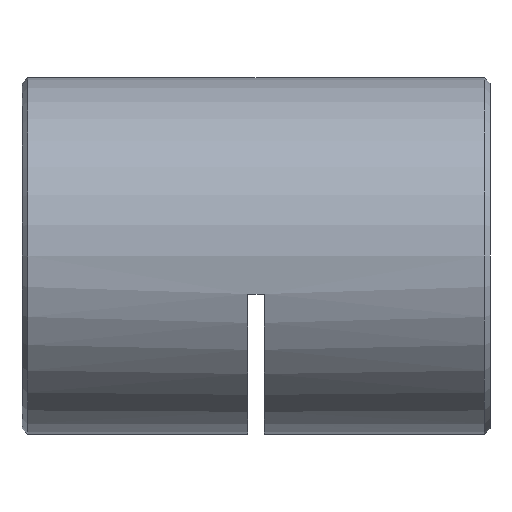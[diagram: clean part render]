
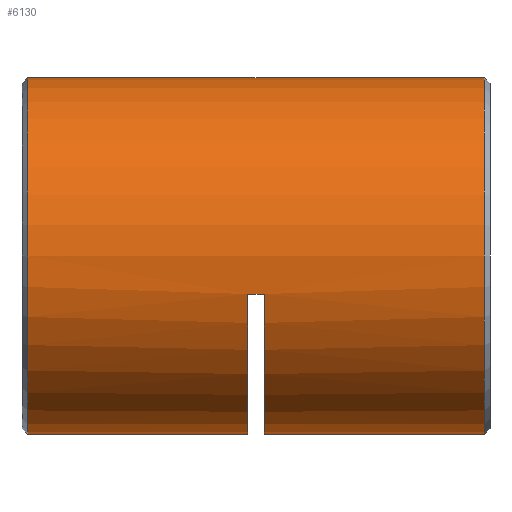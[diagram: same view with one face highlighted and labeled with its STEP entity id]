
A CAD part, left-side view. The second image highlights one B-rep face of the part: STEP entity #6130.
In plain terms, the highlighted cylindrical face has radius 16 mm (diameter 32 mm), a partial arc.
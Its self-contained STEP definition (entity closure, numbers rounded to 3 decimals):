
#32 = CARTESIAN_POINT ( 'NONE',  ( 0., 20.5, 0. ) ) ;
#181 = VERTEX_POINT ( 'NONE', #616 ) ;
#229 = CARTESIAN_POINT ( 'NONE',  ( 0., 42.5, 0. ) ) ;
#246 = CARTESIAN_POINT ( 'NONE',  ( 0., 0.75, 16. ) ) ;
#458 = DIRECTION ( 'NONE',  ( 0., 0., -1. ) ) ;
#463 = EDGE_CURVE ( 'NONE', #1774, #4302, #4386, .T. ) ;
#542 = VECTOR ( 'NONE', #5184, 1000. ) ;
#616 = CARTESIAN_POINT ( 'NONE',  ( 0., 41.75, 16. ) ) ;
#675 = AXIS2_PLACEMENT_3D ( 'NONE', #2227, #2717, #5671 ) ;
#738 = CIRCLE ( 'NONE', #2302, 16. ) ;
#853 = DIRECTION ( 'NONE',  ( 0., -1., 0. ) ) ;
#871 = CYLINDRICAL_SURFACE ( 'NONE', #6316, 16. ) ;
#953 = CIRCLE ( 'NONE', #5055, 16. ) ;
#1008 = DIRECTION ( 'NONE',  ( 0., -1., 0. ) ) ;
#1078 = VERTEX_POINT ( 'NONE', #4673 ) ;
#1139 = ORIENTED_EDGE ( 'NONE', *, *, #5415, .T. ) ;
#1340 = CIRCLE ( 'NONE', #2258, 16. ) ;
#1441 = VECTOR ( 'NONE', #2074, 1000. ) ;
#1577 = ORIENTED_EDGE ( 'NONE', *, *, #4040, .F. ) ;
#1599 = DIRECTION ( 'NONE',  ( 0., 0., -1. ) ) ;
#1637 = EDGE_CURVE ( 'NONE', #5203, #1078, #3531, .T. ) ;
#1774 = VERTEX_POINT ( 'NONE', #5956 ) ;
#2074 = DIRECTION ( 'NONE',  ( 0., -1., 0. ) ) ;
#2227 = CARTESIAN_POINT ( 'NONE',  ( 0., 22., 0. ) ) ;
#2258 = AXIS2_PLACEMENT_3D ( 'NONE', #32, #1008, #4451 ) ;
#2296 = ORIENTED_EDGE ( 'NONE', *, *, #4829, .F. ) ;
#2302 = AXIS2_PLACEMENT_3D ( 'NONE', #2693, #5200, #6209 ) ;
#2429 = EDGE_CURVE ( 'NONE', #6363, #2746, #2755, .T. ) ;
#2512 = DIRECTION ( 'NONE',  ( 0., -1., 0. ) ) ;
#2562 = ORIENTED_EDGE ( 'NONE', *, *, #2429, .T. ) ;
#2577 = ORIENTED_EDGE ( 'NONE', *, *, #4839, .T. ) ;
#2581 = DIRECTION ( 'NONE',  ( 0., -1., 0. ) ) ;
#2693 = CARTESIAN_POINT ( 'NONE',  ( 0., 0.75, 0. ) ) ;
#2717 = DIRECTION ( 'NONE',  ( 0., -1., 0. ) ) ;
#2746 = VERTEX_POINT ( 'NONE', #3040 ) ;
#2755 = LINE ( 'NONE', #2792, #542 ) ;
#2792 = CARTESIAN_POINT ( 'NONE',  ( 0., 42.5, -16. ) ) ;
#2812 = EDGE_CURVE ( 'NONE', #1078, #1774, #1340, .T. ) ;
#2857 = VECTOR ( 'NONE', #853, 1000. ) ;
#3025 = EDGE_LOOP ( 'NONE', ( #1577, #1139, #2562, #2296, #3364, #3110, #3994, #2577 ) ) ;
#3040 = CARTESIAN_POINT ( 'NONE',  ( 0., 22., -16. ) ) ;
#3110 = ORIENTED_EDGE ( 'NONE', *, *, #2812, .T. ) ;
#3187 = FACE_OUTER_BOUND ( 'NONE', #3025, .T. ) ;
#3364 = ORIENTED_EDGE ( 'NONE', *, *, #1637, .T. ) ;
#3531 = LINE ( 'NONE', #4689, #1441 ) ;
#3994 = ORIENTED_EDGE ( 'NONE', *, *, #463, .T. ) ;
#4040 = EDGE_CURVE ( 'NONE', #181, #5941, #5965, .T. ) ;
#4302 = VERTEX_POINT ( 'NONE', #4844 ) ;
#4328 = DIRECTION ( 'NONE',  ( 0., -1., 0. ) ) ;
#4386 = LINE ( 'NONE', #6152, #2857 ) ;
#4451 = DIRECTION ( 'NONE',  ( 0., 0., -1. ) ) ;
#4673 = CARTESIAN_POINT ( 'NONE',  ( -15.632, 20.5, -3.413 ) ) ;
#4689 = CARTESIAN_POINT ( 'NONE',  ( -15.632, 21.25, -3.413 ) ) ;
#4829 = EDGE_CURVE ( 'NONE', #5203, #2746, #5803, .T. ) ;
#4839 = EDGE_CURVE ( 'NONE', #4302, #5941, #738, .T. ) ;
#4844 = CARTESIAN_POINT ( 'NONE',  ( 0., 0.75, -16. ) ) ;
#5055 = AXIS2_PLACEMENT_3D ( 'NONE', #6321, #4328, #458 ) ;
#5184 = DIRECTION ( 'NONE',  ( 0., -1., 0. ) ) ;
#5200 = DIRECTION ( 'NONE',  ( 0., 1., 0. ) ) ;
#5203 = VERTEX_POINT ( 'NONE', #6077 ) ;
#5398 = CARTESIAN_POINT ( 'NONE',  ( 0., 42.5, 16. ) ) ;
#5415 = EDGE_CURVE ( 'NONE', #181, #6363, #953, .T. ) ;
#5654 = VECTOR ( 'NONE', #2512, 1000. ) ;
#5671 = DIRECTION ( 'NONE',  ( 0., 0., -1. ) ) ;
#5803 = CIRCLE ( 'NONE', #675, 16. ) ;
#5941 = VERTEX_POINT ( 'NONE', #246 ) ;
#5956 = CARTESIAN_POINT ( 'NONE',  ( 0., 20.5, -16. ) ) ;
#5965 = LINE ( 'NONE', #5398, #5654 ) ;
#6007 = CARTESIAN_POINT ( 'NONE',  ( 0., 41.75, -16. ) ) ;
#6077 = CARTESIAN_POINT ( 'NONE',  ( -15.632, 22., -3.413 ) ) ;
#6130 = ADVANCED_FACE ( 'NONE', ( #3187 ), #871, .T. ) ;
#6152 = CARTESIAN_POINT ( 'NONE',  ( 0., 42.5, -16. ) ) ;
#6209 = DIRECTION ( 'NONE',  ( 0., 0., 1. ) ) ;
#6316 = AXIS2_PLACEMENT_3D ( 'NONE', #229, #2581, #1599 ) ;
#6321 = CARTESIAN_POINT ( 'NONE',  ( 0., 41.75, 0. ) ) ;
#6363 = VERTEX_POINT ( 'NONE', #6007 ) ;
